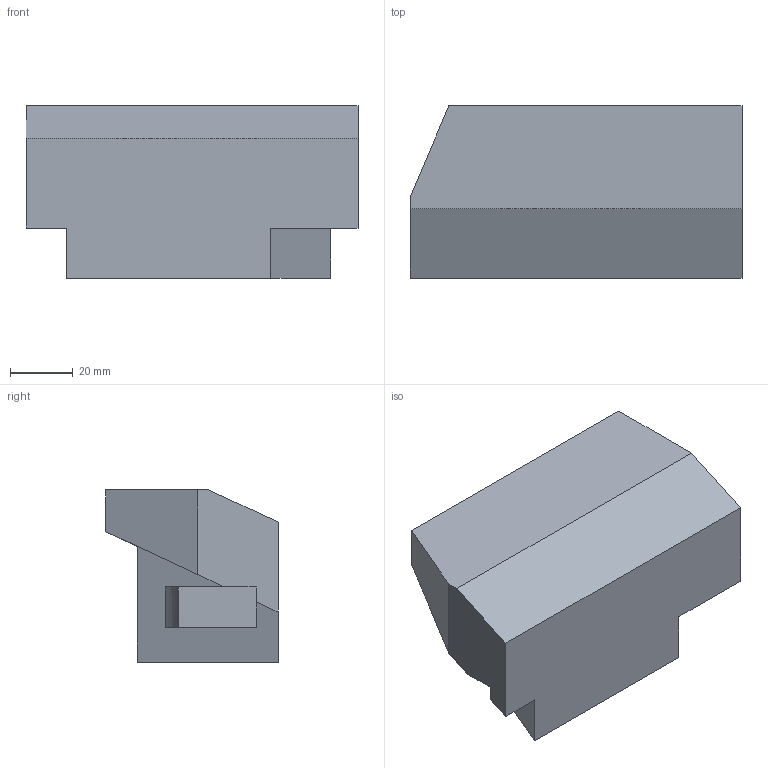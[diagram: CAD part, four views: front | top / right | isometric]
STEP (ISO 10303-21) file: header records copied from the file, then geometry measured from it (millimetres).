
FILE_DESCRIPTION(/* description */ (''),/* implementation_level */ '2;1');
FILE_NAME(/* name */ 'C:\Users\PC-1-11\Desktop\730307R1001\730307R1001.stp',/* time_stamp */ '2023-03-18T10:32:35+09:00',/* author */ ('PC-1-11'),/* organization */ (''),/* preprocessor_version */ 'ST-DEVELOPER v16.1',/* originating_system */ 'Autodesk Inventor 2016',/* authorisation */ '');
FILE_SCHEMA (('AUTOMOTIVE_DESIGN { 1 0 10303 214 3 1 1 }'));
Length unit declared in the file: millimetre
Products named in the file (1): 730307R1001
Bounding box: 106 x 55 x 55 mm (x, y, z)
Volume: 187111.2 mm3; surface area: 27586.9 mm2
Topology: 1 solids, 1 shells, 20 faces, 57 edges, 38 vertices
Faces by surface type: plane 19, cylinder 1
Entity records: 673 total; most frequent: CARTESIAN_POINT 116, ORIENTED_EDGE 114, DIRECTION 103, EDGE_CURVE 57, LINE 53, VECTOR 53, VERTEX_POINT 38, AXIS2_PLACEMENT_3D 25
